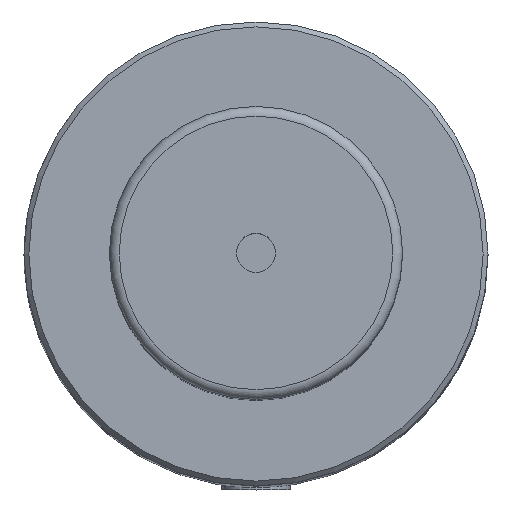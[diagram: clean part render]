
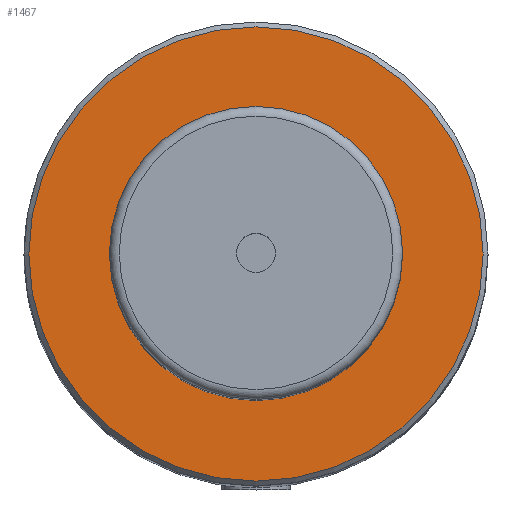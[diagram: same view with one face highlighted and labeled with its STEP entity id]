
A CAD part, top view. The second image highlights one B-rep face of the part: STEP entity #1467.
In plain terms, the highlighted planar face has unit normal (0, 0, 1).
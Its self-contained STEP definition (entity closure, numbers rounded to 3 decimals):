
#1447 = VERTEX_POINT('',#1448);
#1448 = CARTESIAN_POINT('',(46.5,0.,186.));
#1456 = EDGE_CURVE('',#1447,#1447,#1457,.T.);
#1457 = CIRCLE('',#1458,46.5);
#1458 = AXIS2_PLACEMENT_3D('',#1459,#1460,#1461);
#1459 = CARTESIAN_POINT('',(0.,0.,186.));
#1460 = DIRECTION('',(0.,0.,1.));
#1461 = DIRECTION('',(1.,0.,0.));
#1467 = ADVANCED_FACE('',(#1468),#1471,.T.);
#1468 = FACE_BOUND('',#1469,.T.);
#1469 = EDGE_LOOP('',(#1470));
#1470 = ORIENTED_EDGE('',*,*,#1456,.T.);
#1471 = PLANE('',#1472);
#1472 = AXIS2_PLACEMENT_3D('',#1473,#1474,#1475);
#1473 = CARTESIAN_POINT('',(0.,0.,186.));
#1474 = DIRECTION('',(0.,0.,1.));
#1475 = DIRECTION('',(1.,0.,0.));
